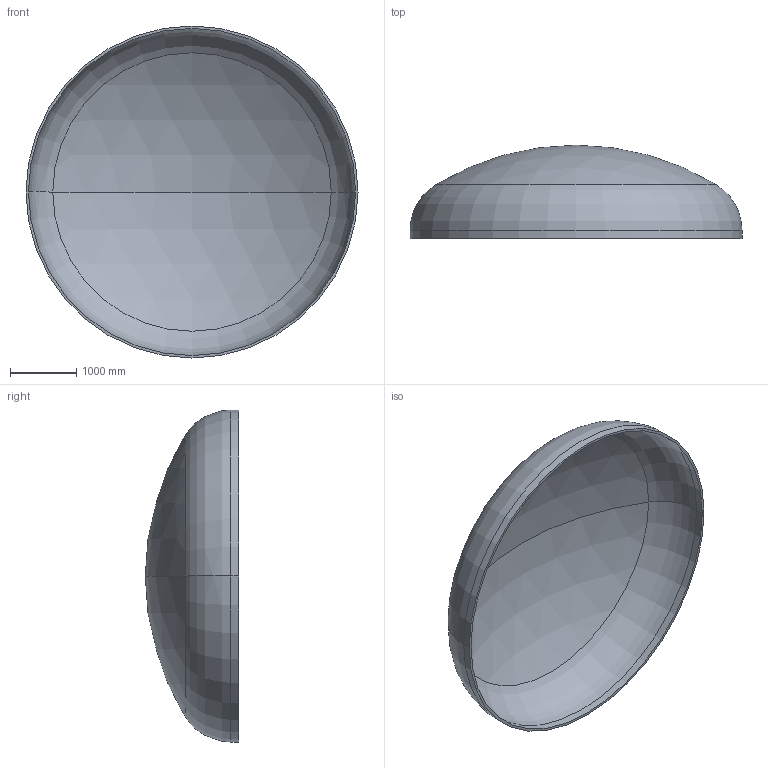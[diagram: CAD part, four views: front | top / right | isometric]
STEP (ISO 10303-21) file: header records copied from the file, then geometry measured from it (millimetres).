
FILE_DESCRIPTION (( 'STEP AP203' ), '1' );
FILE_NAME ('DIN 28013 Korbbogenform_-_Boden DIN 28013 - 5000 x 120 - I - s=37.step', '2016-07-02T00:25:09', ( '' ), ( '' ), 'SwSTEP 2.0', 'SolidWorks 2013', '' );
FILE_SCHEMA (( 'CONFIG_CONTROL_DESIGN' ));
Length unit declared in the file: millimetre
Products named in the file (1): DIN 28013 Korbbogenform_-_Boden DIN 28013 - 5000 x 120 - I - s=37
Bounding box: 5000 x 1406.25 x 5000 mm (x, y, z)
Volume: 1065622513.3 mm3; surface area: 58180956 mm2
Topology: 1 solids, 1 shells, 13 faces, 24 edges, 14 vertices
Faces by surface type: torus 4, cylinder 4, sphere 4, plane 1
Entity records: 407 total; most frequent: DIRECTION 72, CARTESIAN_POINT 52, ORIENTED_EDGE 48, AXIS2_PLACEMENT_3D 34, EDGE_CURVE 24, CIRCLE 20, EDGE_LOOP 14, VERTEX_POINT 14
